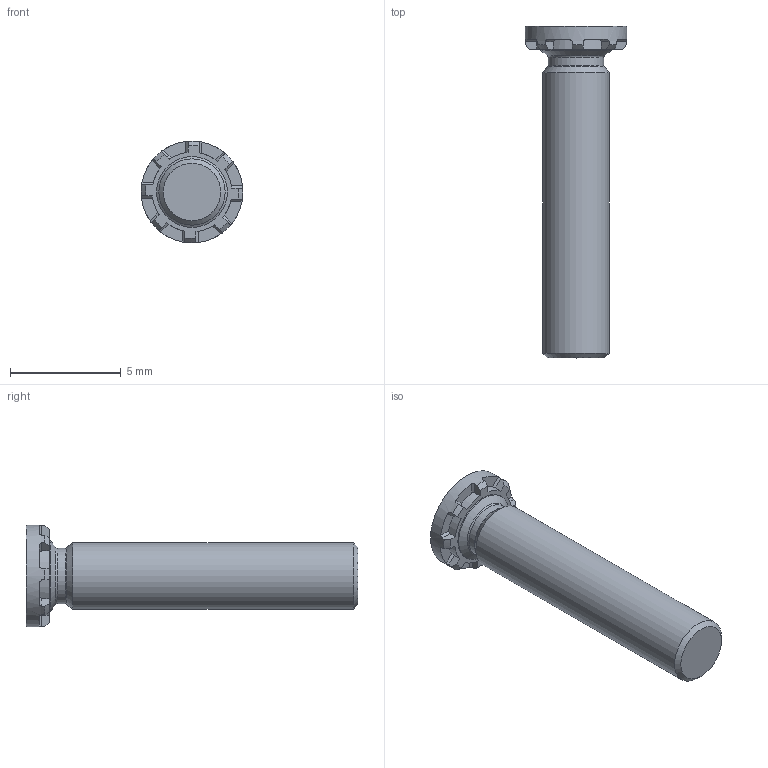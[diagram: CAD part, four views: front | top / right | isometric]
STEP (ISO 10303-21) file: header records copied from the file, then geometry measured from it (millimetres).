
FILE_DESCRIPTION(/* description */ (''),/* implementation_level */ '2;1');
FILE_NAME(/* name */ 'C:\Users\keval.kumar\Desktop\Fastit\Clinch Screw- FH Range\M3\Clinch Screw-FH Range_M3x15.stp',/* time_stamp */ '2024-03-12T11:50:29+05:00',/* author */ ('keval.kumar'),/* organization */ (''),/* preprocessor_version */ 'ST-DEVELOPER v18.1',/* originating_system */ 'Autodesk Inventor 2022',/* authorisation */ '');
FILE_SCHEMA (('AUTOMOTIVE_DESIGN { 1 0 10303 214 3 1 1 }'));
Length unit declared in the file: millimetre
Products named in the file (1): Clinch Screw-FH Range_M3x15
Bounding box: 4.6 x 15 x 4.6 mm (x, y, z)
Volume: 112.4 mm3; surface area: 180 mm2
Topology: 1 solids, 1 shells, 68 faces, 193 edges, 128 vertices
Faces by surface type: plane 43, cylinder 12, cone 11, torus 2
Full cylindrical faces by diameter (mm): 2.5 x1, 3 x1, 3.2 x1, 4.6 x1
Entity records: 2278 total; most frequent: CARTESIAN_POINT 422, DIRECTION 405, ORIENTED_EDGE 386, EDGE_CURVE 193, AXIS2_PLACEMENT_3D 159, VERTEX_POINT 128, LINE 87, VECTOR 87
